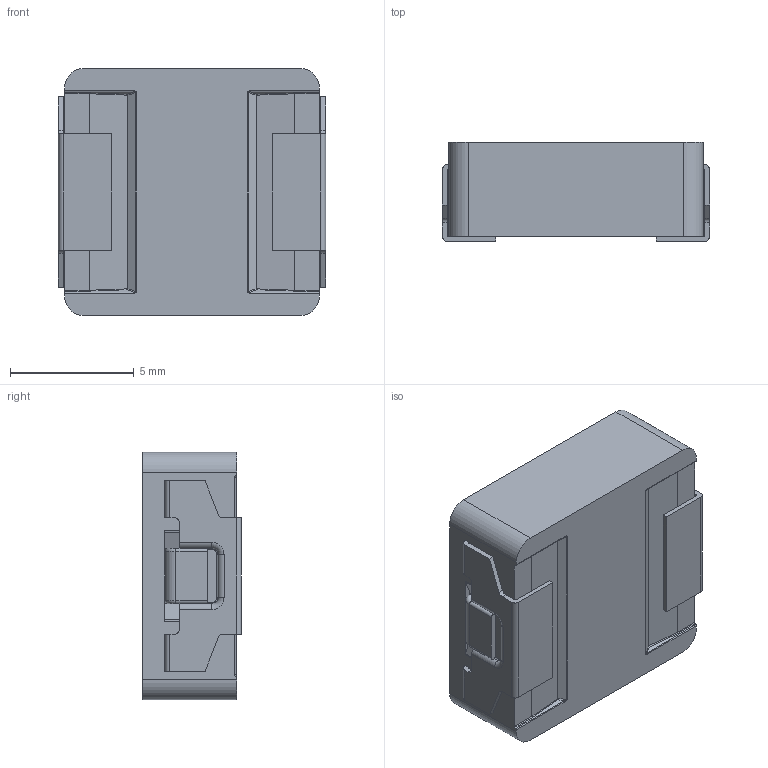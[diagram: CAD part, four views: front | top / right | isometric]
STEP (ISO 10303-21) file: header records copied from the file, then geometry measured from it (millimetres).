
FILE_DESCRIPTION (( 'STEP AP214' ), '1' );
FILE_NAME ('ETQP4M1R0KVC.STEP', '2017-10-27T04:11:00', ( '' ), ( '' ), 'SwSTEP 2.0', 'SolidWorks 2015', '' );
FILE_SCHEMA (( 'AUTOMOTIVE_DESIGN' ));
Length unit declared in the file: millimetre
Products named in the file (1): ETQP4M1R0KVC
Bounding box: 10.8 x 4 x 10 mm (x, y, z)
Volume: 392.1 mm3; surface area: 478.7 mm2
Topology: 1 solids, 1 shells, 215 faces, 596 edges, 376 vertices
Faces by surface type: cylinder 102, plane 83, torus 20, bspline 4, sphere 4, cone 2
Entity records: 9329 total; most frequent: CARTESIAN_POINT 1382, DIRECTION 1200, ORIENTED_EDGE 1176, EDGE_CURVE 588, AXIS2_PLACEMENT_3D 430, VERTEX_POINT 372, LINE 340, VECTOR 340
